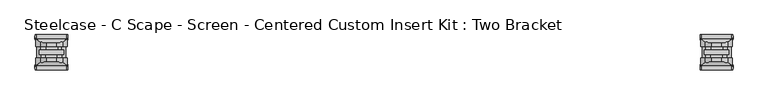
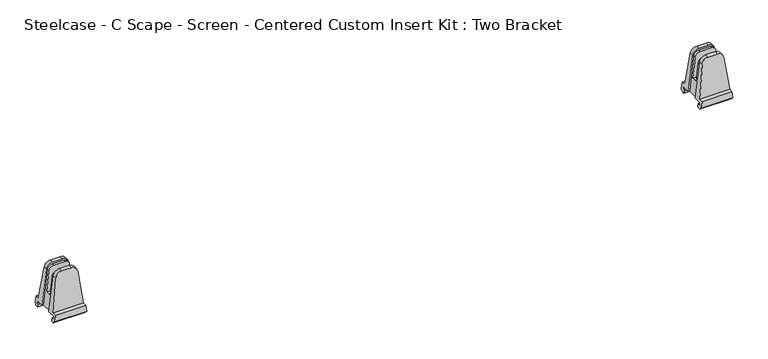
"""IFC4 building model written with IfcOpenShell, lengths in millimetres: furniture geometry, Steelcase - C Scape - Screen - Centered Custom Insert Kit : Two Bracket."""

from ifc_helpers import new_model, si_unit, frame, origin, place, context, project, spatial, circle_curve, ellipse_curve, source, transform, mapped, element, save
from ifc_brep_helpers import plane_surface, cylinder_surface, advanced_brep


def steelcase_c_scape_screen_centered_custom_insert_kit_two_4a2633e1(model_context):
    return source(origin(), model_context, "Body", "AdvancedBrep", [
        advanced_brep(
        [(1135.9509563, -3.1752569, 793.5976353), (1143.5547419, -3.1752569, 793.5976353), (1151.2009668, -3.1752569, 793.5976353), (1151.2009668, 3.17474, 793.5976353), (1143.5547419, 3.17474, 793.5976353), (1135.9509563, 3.17474, 793.5976353), (1125.6397645, -3.1752569, 784.4759275), (1118.1961946, -3.1752569, 723.9), (1120.2800991, -3.1752569, 723.9), (1126.5386704, -3.1752569, 783.4463283), (1134.5405253, -3.1752569, 790.6512308), (1154.1384021, -3.1752569, 790.6512308), (1160.4539246, -3.1752569, 784.9620449), (1166.8430489, -3.1752569, 723.9), (1168.9557285, -3.1752569, 723.9), (1161.5121585, -3.1752569, 784.4759275), (1118.1961946, 10.1600734, 723.9), (1168.9557285, 10.1600734, 723.9), (1166.8430489, -22.2252569, 723.9), (1168.9557285, -22.2250614, 723.9), (1168.9557285, -35.5603917, 723.9), (1118.1961946, -35.5603917, 723.9), (1118.1961946, -22.2250614, 723.9), (1120.2800991, -22.2250614, 723.9), (1117.7275467, 10.1600734, 720.086134), (1169.4243764, 10.1600734, 720.086134), (1117.7275467, 6.7312129, 720.086134), (1169.4243764, 6.7312129, 720.086134), (1117.1969536, 6.7312129, 715.7681562), (1169.9549695, 6.7312129, 715.7681562), (1116.9863055, 9.1438564, 714.375), (1170.1231783, 9.1438564, 714.375), (1117.0257626, 11.8111354, 714.375), (1170.1231783, 11.8111354, 714.375), (1117.4939371, 15.6202052, 718.1850145), (1169.6579859, 15.6202052, 718.1850145), (1118.8422753, 15.6202052, 729.1578186), (1168.3096478, 15.6202052, 729.1578186), (1118.8422753, 8.8135415, 729.1578186), (1168.3096478, 8.8135415, 729.1578186), (1125.6397645, 3.9729344, 784.4759275), (1161.5121585, 3.9729344, 784.4759275), (1118.8422753, -34.2138598, 729.1578186), (1168.3096478, -34.2138598, 729.1578186), (1161.5121585, -29.3732527, 784.4759275), (1151.2009668, -28.5750583, 793.5976353), (1143.5547419, -28.5750583, 793.5976353), (1135.9509563, -28.5750583, 793.5976353), (1125.6397645, -29.3732527, 784.4759275), (1118.8422753, -41.0205235, 729.1578186), (1168.3096478, -41.0205235, 729.1578186), (1117.4939371, -41.0205235, 718.1850145), (1169.6579859, -41.0205235, 718.1850145), (1116.9863055, -37.2114537, 714.375), (1170.1231783, -37.2114537, 714.375), (1117.0257626, -34.5441746, 714.375), (1170.1231783, -34.5441746, 714.375), (1117.1969536, -32.1315312, 715.7681562), (1169.9549695, -32.1315312, 715.7681562), (1117.7275467, -32.1315312, 720.086134), (1169.4243764, -32.1315312, 720.086134), (1117.7275467, -35.5603917, 720.086134), (1169.4243764, -35.5603917, 720.086134), (1135.9509563, -22.2250614, 793.5976353), (1143.5547419, -22.2250614, 793.5976353), (1151.2009668, -22.2250614, 793.5976353), (1161.5121585, -22.2250614, 784.4759275), (1160.9960885, -22.2250614, 779.780484), (1153.2144113, -22.2250614, 786.79042), (1133.687828, -22.2250614, 786.79042), (1126.1795976, -22.2250614, 780.0299789), (1125.6397645, -22.2250614, 784.4759275), (1133.687828, -17.4500569, 786.79042), (1153.2144113, -17.4500569, 786.79042), (1160.9960885, -17.4500569, 779.780484), (1164.2810426, -17.4500569, 748.3855694), (1122.8536361, -17.4500569, 748.3855694), (1126.1795976, -17.4500569, 780.0299789), (1122.8536361, -7.9504569, 748.3855694), (1126.5386704, -7.9504569, 783.4463283), (1160.4539246, -7.9504569, 784.9620449), (1164.2810426, -7.9504569, 748.3855694), (1134.5405253, -7.9504569, 790.6512308), (1154.1384021, -7.9504569, 790.6512308)],
        [
            (0, 1),
            (1, 2),
            (2, 3),
            (3, 4),
            (4, 5),
            (5, 0),
            (0, 6, circle_curve(frame((1135.9509563, -3.1752569, 783.2088883), z_axis=(0.0, -1.0, 0.0), x_axis=(-1.0, 0.0, 0.0)), 10.388747)),
            (6, 7),
            (7, 8),
            (8, 9),
            (9, 10, circle_curve(frame((1134.5405253, -3.1752569, 782.6052995), z_axis=(0.0, 1.0, 0.0), x_axis=(1.0, 0.0, 0.0)), 8.0459313)),
            (10, 11),
            (11, 12, circle_curve(frame((1154.1384021, -3.1752569, 784.3012308), z_axis=(0.0, 1.0, 0.0), x_axis=(1.0, 0.0, 0.0)), 6.35)),
            (12, 13),
            (13, 14),
            (14, 15),
            (15, 2, circle_curve(frame((1151.2009668, -3.1752569, 783.2088883), z_axis=(0.0, -1.0, 0.0), x_axis=(1.0, 0.0, 0.0)), 10.388747)),
            (16, 17),
            (17, 14),
            (13, 18),
            (18, 19),
            (19, 20),
            (20, 21),
            (21, 22),
            (22, 23),
            (23, 8),
            (7, 16),
            (16, 24),
            (24, 25),
            (25, 17),
            (24, 26),
            (26, 27),
            (27, 25),
            (26, 28),
            (28, 29),
            (29, 27),
            (30, 31),
            (31, 29),
            (28, 30),
            (30, 32),
            (32, 33),
            (33, 31),
            (32, 34),
            (34, 35),
            (35, 33),
            (34, 36),
            (36, 37),
            (37, 35),
            (36, 38),
            (38, 39),
            (39, 37),
            (38, 40),
            (40, 5, ellipse_curve(frame((1135.9509563, 4.0838066, 783.2088883), z_axis=(0.0, 0.9961932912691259, 0.08717182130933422), x_axis=(0.0, 0.08717182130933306, -0.9961932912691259)), 10.428445, 10.388747)),
            (3, 41, ellipse_curve(frame((1151.2009668, 4.0838066, 783.2088883), z_axis=(0.0, 0.9961932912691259, 0.08717182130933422), x_axis=(0.0, 0.08717182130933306, -0.9961932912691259)), 10.428445, 10.388747)),
            (41, 39),
            (42, 43),
            (43, 44),
            (44, 45, ellipse_curve(frame((1151.2009668, -29.4841248, 783.2088883), z_axis=(0.0, -0.9961932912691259, 0.08717182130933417), x_axis=(0.0, 0.08717182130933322, 0.996193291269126)), 10.428445, 10.388747)),
            (45, 46),
            (46, 47),
            (47, 48, ellipse_curve(frame((1135.9509563, -29.4841248, 783.2088883), z_axis=(0.0, -0.9961932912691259, 0.08717182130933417), x_axis=(0.0, 0.08717182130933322, 0.996193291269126)), 10.428445, 10.388747)),
            (48, 42),
            (42, 49),
            (49, 50),
            (50, 43),
            (49, 51),
            (51, 52),
            (52, 50),
            (53, 54),
            (54, 52),
            (51, 53),
            (53, 55),
            (55, 56),
            (56, 54),
            (55, 57),
            (57, 58),
            (58, 56),
            (57, 59),
            (59, 60),
            (60, 58),
            (59, 61),
            (61, 62),
            (62, 60),
            (61, 21),
            (20, 62),
            (63, 64),
            (64, 65),
            (65, 66, circle_curve(frame((1151.2009668, -22.2250614, 783.2088883), z_axis=(0.0, 1.0, 0.0), x_axis=(1.0, 0.0, 0.0)), 10.388747)),
            (66, 19),
            (18, 67),
            (67, 68, circle_curve(frame((1153.2144113, -22.2250614, 778.9662613), z_axis=(0.0, -1.0, 0.0), x_axis=(1.0, 0.0, 0.0)), 7.8241587)),
            (68, 69),
            (69, 70, circle_curve(frame((1133.687828, -22.2250614, 779.2408321), z_axis=(0.0, -1.0, 0.0), x_axis=(1.0, 0.0, 0.0)), 7.5495878)),
            (70, 23),
            (22, 71),
            (71, 63, circle_curve(frame((1135.9509563, -22.2250614, 783.2088883), z_axis=(0.0, 1.0, 0.0), x_axis=(-1.0, 0.0, 0.0)), 10.388747)),
            (45, 65),
            (63, 47),
            (6, 40),
            (48, 71),
            (15, 41),
            (44, 66),
            (72, 73),
            (73, 74, circle_curve(frame((1153.2144113, -17.4500569, 778.9662613), z_axis=(0.0, 1.0, 0.0), x_axis=(1.0, 0.0, 0.0)), 7.8241587)),
            (74, 75),
            (75, 76),
            (76, 77),
            (77, 72, circle_curve(frame((1133.687828, -17.4500569, 779.2408321), z_axis=(0.0, 1.0, 0.0), x_axis=(1.0, 0.0, 0.0)), 7.5495878)),
            (77, 70),
            (69, 72),
            (76, 78),
            (78, 79),
            (79, 9),
            (12, 80),
            (80, 81),
            (81, 75),
            (74, 67),
            (73, 68),
            (82, 79, circle_curve(frame((1134.5405253, -7.9504569, 782.6052995), z_axis=(0.0, -1.0, 0.0), x_axis=(1.0, 0.0, 0.0)), 8.0459313)),
            (78, 81),
            (80, 83, circle_curve(frame((1154.1384021, -7.9504569, 784.3012308), z_axis=(0.0, -1.0, 0.0), x_axis=(1.0, 0.0, 0.0)), 6.35)),
            (83, 82),
            (82, 10),
            (11, 83),
        ],
        [
            plane_surface(frame((1170.1231783, 3.17474, 793.5976353), z_axis=(0.0, 0.0, 1.0), x_axis=(-1.0, 0.0, 0.0))),
            plane_surface(frame((1170.1231783, -3.1752569, 793.5976353), z_axis=(0.0, -1.0, 0.0), x_axis=(-1.0, 0.0, 0.0))),
            plane_surface(frame((1170.1231783, -3.1752569, 723.9), z_axis=(0.0, 0.0, -1.0), x_axis=(-1.0, 0.0, 0.0))),
            plane_surface(frame((1170.1231783, 10.1600734, 723.9), z_axis=(0.0, -1.0, 0.0), x_axis=(-1.0, 0.0, 0.0))),
            plane_surface(frame((1170.1231783, 10.1600734, 720.086134), z_axis=(0.0, 0.0, 1.0), x_axis=(-1.0, 0.0, 0.0))),
            plane_surface(frame((1170.1231783, 6.7312129, 720.086134), z_axis=(0.0, -1.0, 0.0), x_axis=(-1.0, 0.0, 0.0))),
            plane_surface(frame((1170.1231783, 6.7312129, 715.7681562), z_axis=(0.0, -0.5000581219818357, -0.8659918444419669), x_axis=(-1.0, 0.0, 0.0))),
            plane_surface(frame((1170.1231783, 9.1438564, 714.375), z_axis=(0.0, 0.0, -1.0), x_axis=(-1.0, 0.0, 0.0))),
            plane_surface(frame((1170.1231783, 11.8111354, 714.375), z_axis=(0.0, 0.7071944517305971, -0.7070190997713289), x_axis=(-1.0, 0.0, 0.0))),
            plane_surface(frame((1170.1231783, 15.6202052, 718.1850145), z_axis=(0.0, 1.0, 0.0), x_axis=(-1.0, 0.0, 0.0))),
            plane_surface(frame((1170.1231783, 15.6202052, 729.1578186), z_axis=(0.0, 0.0, 1.0), x_axis=(-1.0, 0.0, 0.0))),
            plane_surface(frame((1170.1231783, 8.8135415, 729.1578186), z_axis=(0.0, 0.9961932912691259, 0.08717182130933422), x_axis=(-1.0, 0.0, 0.0))),
            plane_surface(frame((1170.1231783, -28.5750583, 793.5976353), z_axis=(0.0, -0.9961932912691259, 0.08717182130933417), x_axis=(-1.0, 0.0, 0.0))),
            plane_surface(frame((1170.1231783, -34.2138598, 729.1578186), z_axis=(0.0, 0.0, 1.0), x_axis=(-1.0, 0.0, 0.0))),
            plane_surface(frame((1170.1231783, -41.0205235, 729.1578186), z_axis=(0.0, -1.0, 0.0), x_axis=(-1.0, 0.0, 0.0))),
            plane_surface(frame((1170.1231783, -41.0205235, 718.1850145), z_axis=(0.0, -0.7071944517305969, -0.707019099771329), x_axis=(-1.0, 0.0, 0.0))),
            plane_surface(frame((1170.1231783, -37.2114537, 714.375), z_axis=(0.0, 0.0, -1.0), x_axis=(-1.0, 0.0, 0.0))),
            plane_surface(frame((1170.1231783, -34.5441746, 714.375), z_axis=(0.0, 0.5000581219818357, -0.8659918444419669), x_axis=(-1.0, 0.0, 0.0))),
            plane_surface(frame((1170.1231783, -32.1315312, 715.7681562), z_axis=(0.0, 1.0, 0.0), x_axis=(-1.0, 0.0, 0.0))),
            plane_surface(frame((1170.1231783, -32.1315312, 720.086134), z_axis=(0.0, 0.0, 1.0), x_axis=(-1.0, 0.0, 0.0))),
            plane_surface(frame((1170.1231783, -35.5603917, 720.086134), z_axis=(0.0, 1.0, 0.0), x_axis=(-1.0, 0.0, 0.0))),
            plane_surface(frame((1170.1231783, -22.2250614, 723.9), z_axis=(0.0, 1.0, 0.0), x_axis=(-1.0, 0.0, 0.0))),
            plane_surface(frame((1170.1231783, -22.2250614, 793.5976353), z_axis=(0.0, 0.0, 1.0), x_axis=(-1.0, 0.0, 0.0))),
            plane_surface(frame((1117.0257626, -43.2064559, 714.375), z_axis=(-0.9925346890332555, 0.0, 0.12196266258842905), x_axis=(0.0, 1.0, 0.0))),
            cylinder_surface(frame((1135.9509563, 17.5208706, 783.2088883), z_axis=(0.0, 1.0, 0.0), x_axis=(-1.0, 0.0, 0.0)), 10.388747),
            cylinder_surface(frame((1151.2009668, 17.5208706, 783.2088883), z_axis=(0.0, 1.0, 0.0), x_axis=(1.0, 0.0, 0.0)), 10.388747),
            plane_surface(frame((1161.5121585, -43.2064559, 784.4759275), z_axis=(0.9925346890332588, 0.0, 0.12196266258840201), x_axis=(0.0, 1.0, 0.0))),
            plane_surface(frame((1141.2374158, -17.4500569, 779.2408321), z_axis=(0.0, 1.0, 0.0), x_axis=(0.0, 0.0, -1.0))),
            cylinder_surface(frame((1133.687828, -17.4500569, 779.2408321), z_axis=(0.0, -1.0, 0.0), x_axis=(1.0, 0.0, 0.0)), 7.5495878),
            plane_surface(frame((1126.1795976, -22.2252569, 780.0299789), z_axis=(-0.9945218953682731, 0.0, 0.10452846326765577), x_axis=(0.0, 1.0, 0.0))),
            plane_surface(frame((1166.8430489, -22.2252569, 723.9), z_axis=(0.9945704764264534, 0.0, 0.10406520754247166), x_axis=(0.0, 1.0, 0.0))),
            cylinder_surface(frame((1153.2144113, -17.4500569, 778.9662613), z_axis=(0.0, -1.0, 0.0), x_axis=(1.0, 0.0, 0.0)), 7.8241587),
            plane_surface(frame((1153.2144113, -22.2252569, 786.79042), z_axis=(0.0, 0.0, 1.0), x_axis=(0.0, 1.0, 0.0))),
            plane_surface(frame((1142.5864566, -7.9504569, 782.6052995), z_axis=(0.0, -1.0, 0.0), x_axis=(0.0, 0.0, 1.0))),
            cylinder_surface(frame((1134.5405253, -3.1752569, 782.6052995), z_axis=(0.0, -1.0, 0.0), x_axis=(1.0, 0.0, 0.0)), 8.0459313),
            cylinder_surface(frame((1154.1384021, -3.1752569, 784.3012308), z_axis=(0.0, -1.0, 0.0), x_axis=(1.0, 0.0, 0.0)), 6.35),
            plane_surface(frame((1154.1384021, -7.9504569, 790.6512308), z_axis=(0.0, 0.0, 1.0), x_axis=(0.0, 1.0, 0.0))),
            plane_surface(frame((1164.2810426, -17.4500569, 748.3855694), z_axis=(0.0, 0.0, 1.0), x_axis=(0.0, 1.0, 0.0))),
        ],
        [
            (0, [[1, 2, 3, 4, 5, 6]]),
            (1, [[-1, 7, 8, 9, 10, 11, 12, 13, 14, 15, 16, 17, -2]]),
            (2, [[18, 19, -15, 20, 21, 22, 23, 24, 25, 26, -9, 27]]),
            (3, [[-18, 28, 29, 30]]),
            (4, [[-29, 31, 32, 33]]),
            (5, [[-32, 34, 35, 36]]),
            (6, [[37, 38, -35, 39]]),
            (7, [[-37, 40, 41, 42]]),
            (8, [[-41, 43, 44, 45]]),
            (9, [[-44, 46, 47, 48]]),
            (10, [[-47, 49, 50, 51]]),
            (11, [[-50, 52, 53, -5, -4, 54, 55]]),
            (12, [[56, 57, 58, 59, 60, 61, 62]]),
            (13, [[-56, 63, 64, 65]]),
            (14, [[-64, 66, 67, 68]]),
            (15, [[69, 70, -67, 71]]),
            (16, [[-69, 72, 73, 74]]),
            (17, [[-73, 75, 76, 77]]),
            (18, [[-76, 78, 79, 80]]),
            (19, [[-79, 81, 82, 83]]),
            (20, [[-82, 84, -23, 85]]),
            (21, [[86, 87, 88, 89, -21, 90, 91, 92, 93, 94, -25, 95, 96]]),
            (22, [[-59, 97, -87, -86, 98, -60]]),
            (23, [[99, -52, -49, -46, -43, -40, -39, -34, -31, -28, -27, -8]]),
            (23, [[100, -95, -24, -84, -81, -78, -75, -72, -71, -66, -63, -62]]),
            (24, [[-99, -7, -6, -53]]),
            (24, [[-100, -61, -98, -96]]),
            (25, [[101, -54, -3, -17]]),
            (25, [[102, -88, -97, -58]]),
            (26, [[-101, -16, -19, -30, -33, -36, -38, -42, -45, -48, -51, -55]]),
            (26, [[-102, -57, -65, -68, -70, -74, -77, -80, -83, -85, -22, -89]]),
            (27, [[103, 104, 105, 106, 107, 108]]),
            (28, [[-108, 109, -93, 110]]),
            (29, [[-109, -107, 111, 112, 113, -10, -26, -94]]),
            (30, [[-20, -14, 114, 115, 116, -105, 117, -90]]),
            (31, [[-104, 118, -91, -117]]),
            (32, [[-103, -110, -92, -118]]),
            (33, [[119, -112, 120, -115, 121, 122]]),
            (34, [[-119, 123, -11, -113]]),
            (35, [[-121, -114, -13, 124]]),
            (36, [[-122, -124, -12, -123]]),
            (37, [[-111, -106, -116, -120]]),
        ],
    ),
        advanced_brep(
        [(67.0173627, -3.1752569, 793.5976353), (74.6211483, -3.1752569, 793.5976353), (82.2673732, -3.1752569, 793.5976353), (82.2673732, 3.17474, 793.5976353), (74.6211483, 3.17474, 793.5976353), (67.0173627, 3.17474, 793.5976353), (56.706171, -3.1752569, 784.4759275), (49.262601, -3.1752569, 723.9), (51.3465055, -3.1752569, 723.9), (57.6050768, -3.1752569, 783.4463283), (65.6069317, -3.1752569, 790.6512308), (85.2048085, -3.1752569, 790.6512308), (91.520331, -3.1752569, 784.9620449), (97.9094553, -3.1752569, 723.9), (100.0221349, -3.1752569, 723.9), (92.578565, -3.1752569, 784.4759275), (49.262601, 10.1600734, 723.9), (100.0221349, 10.1600734, 723.9), (97.9094553, -22.2252569, 723.9), (100.0221349, -22.2250614, 723.9), (100.0221349, -35.5603917, 723.9), (49.262601, -35.5603917, 723.9), (49.262601, -22.2250614, 723.9), (51.3465055, -22.2250614, 723.9), (48.7939531, 10.1600734, 720.086134), (100.4907828, 10.1600734, 720.086134), (48.7939531, 6.7312129, 720.086134), (100.4907828, 6.7312129, 720.086134), (48.26336, 6.7312129, 715.7681562), (101.0213759, 6.7312129, 715.7681562), (48.0527119, 9.1438564, 714.375), (101.1895848, 9.1438564, 714.375), (48.092169, 11.8111354, 714.375), (101.1895848, 11.8111354, 714.375), (48.5603436, 15.6202052, 718.1850145), (100.7243923, 15.6202052, 718.1850145), (49.9086817, 15.6202052, 729.1578186), (99.3760542, 15.6202052, 729.1578186), (49.9086817, 8.8135415, 729.1578186), (99.3760542, 8.8135415, 729.1578186), (56.706171, 3.9729344, 784.4759275), (92.578565, 3.9729344, 784.4759275), (49.9086817, -34.2138598, 729.1578186), (99.3760542, -34.2138598, 729.1578186), (92.578565, -29.3732527, 784.4759275), (82.2673732, -28.5750583, 793.5976353), (74.6211483, -28.5750583, 793.5976353), (67.0173627, -28.5750583, 793.5976353), (56.706171, -29.3732527, 784.4759275), (49.9086817, -41.0205235, 729.1578186), (99.3760542, -41.0205235, 729.1578186), (48.5603436, -41.0205235, 718.1850145), (100.7243923, -41.0205235, 718.1850145), (48.0527119, -37.2114537, 714.375), (101.1895848, -37.2114537, 714.375), (48.092169, -34.5441746, 714.375), (101.1895848, -34.5441746, 714.375), (48.26336, -32.1315312, 715.7681562), (101.0213759, -32.1315312, 715.7681562), (48.7939531, -32.1315312, 720.086134), (100.4907828, -32.1315312, 720.086134), (48.7939531, -35.5603917, 720.086134), (100.4907828, -35.5603917, 720.086134), (67.0173627, -22.2250614, 793.5976353), (74.6211483, -22.2250614, 793.5976353), (82.2673732, -22.2250614, 793.5976353), (92.578565, -22.2250614, 784.4759275), (92.0624949, -22.2250614, 779.780484), (84.2808177, -22.2250614, 786.79042), (64.7542344, -22.2250614, 786.79042), (57.246004, -22.2250614, 780.0299789), (56.706171, -22.2250614, 784.4759275), (64.7542344, -17.4500569, 786.79042), (84.2808177, -17.4500569, 786.79042), (92.0624949, -17.4500569, 779.780484), (95.347449, -17.4500569, 748.3855694), (53.9200426, -17.4500569, 748.3855694), (57.246004, -17.4500569, 780.0299789), (53.9200426, -7.9504569, 748.3855694), (57.6050768, -7.9504569, 783.4463283), (91.520331, -7.9504569, 784.9620449), (95.347449, -7.9504569, 748.3855694), (65.6069317, -7.9504569, 790.6512308), (85.2048085, -7.9504569, 790.6512308)],
        [
            (0, 1),
            (1, 2),
            (2, 3),
            (3, 4),
            (4, 5),
            (5, 0),
            (0, 6, circle_curve(frame((67.0173627, -3.1752569, 783.2088883), z_axis=(0.0, -1.0, 0.0), x_axis=(-1.0, 0.0, 0.0)), 10.388747)),
            (6, 7),
            (7, 8),
            (8, 9),
            (9, 10, circle_curve(frame((65.6069317, -3.1752569, 782.6052995), z_axis=(0.0, 1.0, 0.0), x_axis=(1.0, 0.0, 0.0)), 8.0459313)),
            (10, 11),
            (11, 12, circle_curve(frame((85.2048085, -3.1752569, 784.3012308), z_axis=(0.0, 1.0, 0.0), x_axis=(1.0, 0.0, 0.0)), 6.35)),
            (12, 13),
            (13, 14),
            (14, 15),
            (15, 2, circle_curve(frame((82.2673732, -3.1752569, 783.2088883), z_axis=(0.0, -1.0, 0.0), x_axis=(1.0, 0.0, 0.0)), 10.388747)),
            (16, 17),
            (17, 14),
            (13, 18),
            (18, 19),
            (19, 20),
            (20, 21),
            (21, 22),
            (22, 23),
            (23, 8),
            (7, 16),
            (16, 24),
            (24, 25),
            (25, 17),
            (24, 26),
            (26, 27),
            (27, 25),
            (26, 28),
            (28, 29),
            (29, 27),
            (30, 31),
            (31, 29),
            (28, 30),
            (30, 32),
            (32, 33),
            (33, 31),
            (32, 34),
            (34, 35),
            (35, 33),
            (34, 36),
            (36, 37),
            (37, 35),
            (36, 38),
            (38, 39),
            (39, 37),
            (38, 40),
            (40, 5, ellipse_curve(frame((67.0173627, 4.0838066, 783.2088883), z_axis=(0.0, 0.9961932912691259, 0.08717182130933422), x_axis=(0.0, 0.08717182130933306, -0.9961932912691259)), 10.428445, 10.388747)),
            (3, 41, ellipse_curve(frame((82.2673732, 4.0838066, 783.2088883), z_axis=(0.0, 0.9961932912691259, 0.08717182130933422), x_axis=(0.0, 0.08717182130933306, -0.9961932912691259)), 10.428445, 10.388747)),
            (41, 39),
            (42, 43),
            (43, 44),
            (44, 45, ellipse_curve(frame((82.2673732, -29.4841248, 783.2088883), z_axis=(0.0, -0.9961932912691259, 0.08717182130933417), x_axis=(0.0, 0.08717182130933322, 0.996193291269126)), 10.428445, 10.388747)),
            (45, 46),
            (46, 47),
            (47, 48, ellipse_curve(frame((67.0173627, -29.4841248, 783.2088883), z_axis=(0.0, -0.9961932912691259, 0.08717182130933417), x_axis=(0.0, 0.08717182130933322, 0.996193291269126)), 10.428445, 10.388747)),
            (48, 42),
            (42, 49),
            (49, 50),
            (50, 43),
            (49, 51),
            (51, 52),
            (52, 50),
            (53, 54),
            (54, 52),
            (51, 53),
            (53, 55),
            (55, 56),
            (56, 54),
            (55, 57),
            (57, 58),
            (58, 56),
            (57, 59),
            (59, 60),
            (60, 58),
            (59, 61),
            (61, 62),
            (62, 60),
            (61, 21),
            (20, 62),
            (63, 64),
            (64, 65),
            (65, 66, circle_curve(frame((82.2673732, -22.2250614, 783.2088883), z_axis=(0.0, 1.0, 0.0), x_axis=(1.0, 0.0, 0.0)), 10.388747)),
            (66, 19),
            (18, 67),
            (67, 68, circle_curve(frame((84.2808177, -22.2250614, 778.9662613), z_axis=(0.0, -1.0, 0.0), x_axis=(1.0, 0.0, 0.0)), 7.8241587)),
            (68, 69),
            (69, 70, circle_curve(frame((64.7542344, -22.2250614, 779.2408321), z_axis=(0.0, -1.0, 0.0), x_axis=(1.0, 0.0, 0.0)), 7.5495878)),
            (70, 23),
            (22, 71),
            (71, 63, circle_curve(frame((67.0173627, -22.2250614, 783.2088883), z_axis=(0.0, 1.0, 0.0), x_axis=(-1.0, 0.0, 0.0)), 10.388747)),
            (45, 65),
            (63, 47),
            (6, 40),
            (48, 71),
            (15, 41),
            (44, 66),
            (72, 73),
            (73, 74, circle_curve(frame((84.2808177, -17.4500569, 778.9662613), z_axis=(0.0, 1.0, 0.0), x_axis=(1.0, 0.0, 0.0)), 7.8241587)),
            (74, 75),
            (75, 76),
            (76, 77),
            (77, 72, circle_curve(frame((64.7542344, -17.4500569, 779.2408321), z_axis=(0.0, 1.0, 0.0), x_axis=(1.0, 0.0, 0.0)), 7.5495878)),
            (77, 70),
            (69, 72),
            (76, 78),
            (78, 79),
            (79, 9),
            (12, 80),
            (80, 81),
            (81, 75),
            (74, 67),
            (73, 68),
            (82, 79, circle_curve(frame((65.6069317, -7.9504569, 782.6052995), z_axis=(0.0, -1.0, 0.0), x_axis=(1.0, 0.0, 0.0)), 8.0459313)),
            (78, 81),
            (80, 83, circle_curve(frame((85.2048085, -7.9504569, 784.3012308), z_axis=(0.0, -1.0, 0.0), x_axis=(1.0, 0.0, 0.0)), 6.35)),
            (83, 82),
            (82, 10),
            (11, 83),
        ],
        [
            plane_surface(frame((101.1895848, 3.17474, 793.5976353), z_axis=(0.0, 0.0, 1.0), x_axis=(-1.0, 0.0, 0.0))),
            plane_surface(frame((101.1895848, -3.1752569, 793.5976353), z_axis=(0.0, -1.0, 0.0), x_axis=(-1.0, 0.0, 0.0))),
            plane_surface(frame((101.1895848, -3.1752569, 723.9), z_axis=(0.0, 0.0, -1.0), x_axis=(-1.0, 0.0, 0.0))),
            plane_surface(frame((101.1895848, 10.1600734, 723.9), z_axis=(0.0, -1.0, 0.0), x_axis=(-1.0, 0.0, 0.0))),
            plane_surface(frame((101.1895848, 10.1600734, 720.086134), z_axis=(0.0, 0.0, 1.0), x_axis=(-1.0, 0.0, 0.0))),
            plane_surface(frame((101.1895848, 6.7312129, 720.086134), z_axis=(0.0, -1.0, 0.0), x_axis=(-1.0, 0.0, 0.0))),
            plane_surface(frame((101.1895848, 6.7312129, 715.7681562), z_axis=(0.0, -0.5000581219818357, -0.8659918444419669), x_axis=(-1.0, 0.0, 0.0))),
            plane_surface(frame((101.1895848, 9.1438564, 714.375), z_axis=(0.0, 0.0, -1.0), x_axis=(-1.0, 0.0, 0.0))),
            plane_surface(frame((101.1895848, 11.8111354, 714.375), z_axis=(0.0, 0.7071944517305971, -0.7070190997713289), x_axis=(-1.0, 0.0, 0.0))),
            plane_surface(frame((101.1895848, 15.6202052, 718.1850145), z_axis=(0.0, 1.0, 0.0), x_axis=(-1.0, 0.0, 0.0))),
            plane_surface(frame((101.1895848, 15.6202052, 729.1578186), z_axis=(0.0, 0.0, 1.0), x_axis=(-1.0, 0.0, 0.0))),
            plane_surface(frame((101.1895848, 8.8135415, 729.1578186), z_axis=(0.0, 0.9961932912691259, 0.08717182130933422), x_axis=(-1.0, 0.0, 0.0))),
            plane_surface(frame((101.1895848, -28.5750583, 793.5976353), z_axis=(0.0, -0.9961932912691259, 0.08717182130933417), x_axis=(-1.0, 0.0, 0.0))),
            plane_surface(frame((101.1895848, -34.2138598, 729.1578186), z_axis=(0.0, 0.0, 1.0), x_axis=(-1.0, 0.0, 0.0))),
            plane_surface(frame((101.1895848, -41.0205235, 729.1578186), z_axis=(0.0, -1.0, 0.0), x_axis=(-1.0, 0.0, 0.0))),
            plane_surface(frame((101.1895848, -41.0205235, 718.1850145), z_axis=(0.0, -0.7071944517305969, -0.707019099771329), x_axis=(-1.0, 0.0, 0.0))),
            plane_surface(frame((101.1895848, -37.2114537, 714.375), z_axis=(0.0, 0.0, -1.0), x_axis=(-1.0, 0.0, 0.0))),
            plane_surface(frame((101.1895848, -34.5441746, 714.375), z_axis=(0.0, 0.5000581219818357, -0.8659918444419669), x_axis=(-1.0, 0.0, 0.0))),
            plane_surface(frame((101.1895848, -32.1315312, 715.7681562), z_axis=(0.0, 1.0, 0.0), x_axis=(-1.0, 0.0, 0.0))),
            plane_surface(frame((101.1895848, -32.1315312, 720.086134), z_axis=(0.0, 0.0, 1.0), x_axis=(-1.0, 0.0, 0.0))),
            plane_surface(frame((101.1895848, -35.5603917, 720.086134), z_axis=(0.0, 1.0, 0.0), x_axis=(-1.0, 0.0, 0.0))),
            plane_surface(frame((101.1895848, -22.2250614, 723.9), z_axis=(0.0, 1.0, 0.0), x_axis=(-1.0, 0.0, 0.0))),
            plane_surface(frame((101.1895848, -22.2250614, 793.5976353), z_axis=(0.0, 0.0, 1.0), x_axis=(-1.0, 0.0, 0.0))),
            plane_surface(frame((48.092169, -43.2064559, 714.375), z_axis=(-0.9925346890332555, 0.0, 0.12196266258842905), x_axis=(0.0, 1.0, 0.0))),
            cylinder_surface(frame((67.0173627, 17.5208706, 783.2088883), z_axis=(0.0, 1.0, 0.0), x_axis=(-1.0, 0.0, 0.0)), 10.388747),
            cylinder_surface(frame((82.2673732, 17.5208706, 783.2088883), z_axis=(0.0, 1.0, 0.0), x_axis=(1.0, 0.0, 0.0)), 10.388747),
            plane_surface(frame((92.578565, -43.2064559, 784.4759275), z_axis=(0.9925346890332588, 0.0, 0.12196266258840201), x_axis=(0.0, 1.0, 0.0))),
            plane_surface(frame((72.3038223, -17.4500569, 779.2408321), z_axis=(0.0, 1.0, 0.0), x_axis=(0.0, 0.0, -1.0))),
            cylinder_surface(frame((64.7542344, -17.4500569, 779.2408321), z_axis=(0.0, -1.0, 0.0), x_axis=(1.0, 0.0, 0.0)), 7.5495878),
            plane_surface(frame((57.246004, -22.2252569, 780.0299789), z_axis=(-0.9945218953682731, 0.0, 0.10452846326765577), x_axis=(0.0, 1.0, 0.0))),
            plane_surface(frame((97.9094553, -22.2252569, 723.9), z_axis=(0.9945704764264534, 0.0, 0.10406520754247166), x_axis=(0.0, 1.0, 0.0))),
            cylinder_surface(frame((84.2808177, -17.4500569, 778.9662613), z_axis=(0.0, -1.0, 0.0), x_axis=(1.0, 0.0, 0.0)), 7.8241587),
            plane_surface(frame((84.2808177, -22.2252569, 786.79042), z_axis=(0.0, 0.0, 1.0), x_axis=(0.0, 1.0, 0.0))),
            plane_surface(frame((73.652863, -7.9504569, 782.6052995), z_axis=(0.0, -1.0, 0.0), x_axis=(0.0, 0.0, 1.0))),
            cylinder_surface(frame((65.6069317, -3.1752569, 782.6052995), z_axis=(0.0, -1.0, 0.0), x_axis=(1.0, 0.0, 0.0)), 8.0459313),
            cylinder_surface(frame((85.2048085, -3.1752569, 784.3012308), z_axis=(0.0, -1.0, 0.0), x_axis=(1.0, 0.0, 0.0)), 6.35),
            plane_surface(frame((85.2048085, -7.9504569, 790.6512308), z_axis=(0.0, 0.0, 1.0), x_axis=(0.0, 1.0, 0.0))),
            plane_surface(frame((95.347449, -17.4500569, 748.3855694), z_axis=(0.0, 0.0, 1.0), x_axis=(0.0, 1.0, 0.0))),
        ],
        [
            (0, [[1, 2, 3, 4, 5, 6]]),
            (1, [[-1, 7, 8, 9, 10, 11, 12, 13, 14, 15, 16, 17, -2]]),
            (2, [[18, 19, -15, 20, 21, 22, 23, 24, 25, 26, -9, 27]]),
            (3, [[-18, 28, 29, 30]]),
            (4, [[-29, 31, 32, 33]]),
            (5, [[-32, 34, 35, 36]]),
            (6, [[37, 38, -35, 39]]),
            (7, [[-37, 40, 41, 42]]),
            (8, [[-41, 43, 44, 45]]),
            (9, [[-44, 46, 47, 48]]),
            (10, [[-47, 49, 50, 51]]),
            (11, [[-50, 52, 53, -5, -4, 54, 55]]),
            (12, [[56, 57, 58, 59, 60, 61, 62]]),
            (13, [[-56, 63, 64, 65]]),
            (14, [[-64, 66, 67, 68]]),
            (15, [[69, 70, -67, 71]]),
            (16, [[-69, 72, 73, 74]]),
            (17, [[-73, 75, 76, 77]]),
            (18, [[-76, 78, 79, 80]]),
            (19, [[-79, 81, 82, 83]]),
            (20, [[-82, 84, -23, 85]]),
            (21, [[86, 87, 88, 89, -21, 90, 91, 92, 93, 94, -25, 95, 96]]),
            (22, [[-59, 97, -87, -86, 98, -60]]),
            (23, [[99, -52, -49, -46, -43, -40, -39, -34, -31, -28, -27, -8]]),
            (23, [[100, -95, -24, -84, -81, -78, -75, -72, -71, -66, -63, -62]]),
            (24, [[-99, -7, -6, -53]]),
            (24, [[-100, -61, -98, -96]]),
            (25, [[101, -54, -3, -17]]),
            (25, [[102, -88, -97, -58]]),
            (26, [[-101, -16, -19, -30, -33, -36, -38, -42, -45, -48, -51, -55]]),
            (26, [[-102, -57, -65, -68, -70, -74, -77, -80, -83, -85, -22, -89]]),
            (27, [[103, 104, 105, 106, 107, 108]]),
            (28, [[-108, 109, -93, 110]]),
            (29, [[-109, -107, 111, 112, 113, -10, -26, -94]]),
            (30, [[-20, -14, 114, 115, 116, -105, 117, -90]]),
            (31, [[-104, 118, -91, -117]]),
            (32, [[-103, -110, -92, -118]]),
            (33, [[119, -112, 120, -115, 121, 122]]),
            (34, [[-119, 123, -11, -113]]),
            (35, [[-121, -114, -13, 124]]),
            (36, [[-122, -124, -12, -123]]),
            (37, [[-111, -106, -116, -120]]),
        ],
    ),
    ])


if __name__ == "__main__":
    model = new_model("IFC4")
    model_context = context("Model", 3, world=origin())
    ifc_project = project(units=[si_unit("LENGTHUNIT", "METRE", prefix="MILLI")], contexts=[model_context])
    site = spatial("IfcSite", under=ifc_project)
    building = spatial("IfcBuilding", under=site)
    placement = place(None, origin())
    steelcase_c_scape_screen_centered_custom_insert_kit_two_shape = steelcase_c_scape_screen_centered_custom_insert_kit_two_4a2633e1(model_context)
    element("IfcFurniture", 1, ObjectType="Steelcase - C Scape - Screen - Centered Custom Insert Kit : Two Bracket", at=placement, inside=building, context=model_context, shape_type="MappedRepresentation", body=[
        mapped(steelcase_c_scape_screen_centered_custom_insert_kit_two_shape, transform((0.0, 0.0, 0.0), x_axis=(1.0, 0.0, 0.0), y_axis=(0.0, 1.0, 0.0), z_axis=(0.0, 0.0, 1.0))),
    ])
    save(model, "model.ifc")
